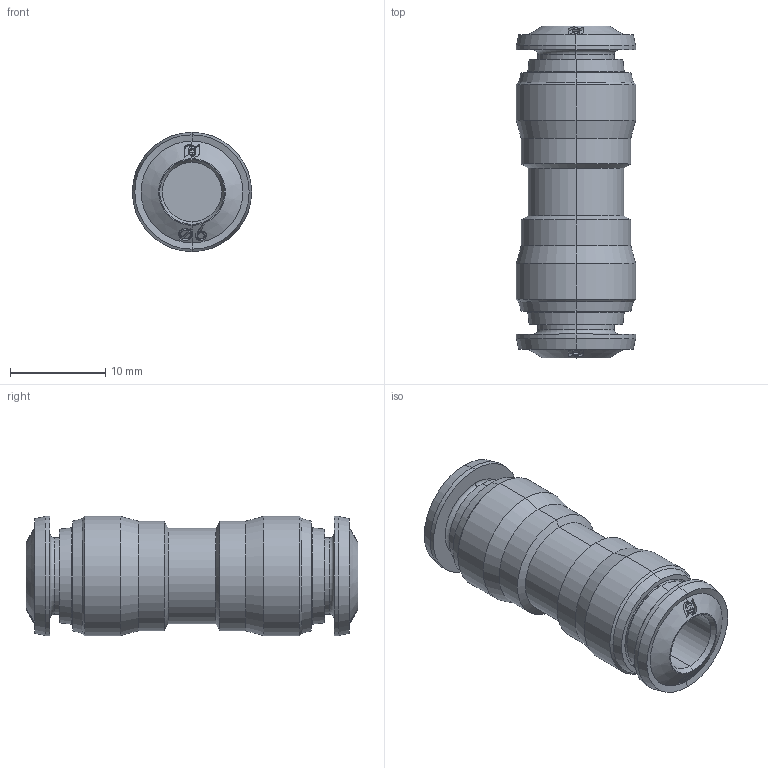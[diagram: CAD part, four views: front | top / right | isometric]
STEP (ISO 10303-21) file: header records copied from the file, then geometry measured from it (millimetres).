
FILE_DESCRIPTION (( 'STEP AP214' ), '1' );
FILE_NAME ('5004000003.step', '2012-10-01T16:42:32', ( '' ), ( '' ), 'SwSTEP 2.0', 'SolidWorks 2012', '' );
FILE_SCHEMA (( 'AUTOMOTIVE_DESIGN' ));
Length unit declared in the file: millimetre
Products named in the file (1): 5004000003
Bounding box: 12.5 x 34.8 x 12.5 mm (x, y, z)
Volume: 2947.5 mm3; surface area: 2402.1 mm2
Topology: 1 solids, 3 shells, 232 faces, 552 edges, 348 vertices
Faces by surface type: bspline 92, cone 66, cylinder 46, plane 20, torus 8
Entity records: 13938 total; most frequent: CARTESIAN_POINT 6745, ORIENTED_EDGE 1104, DIRECTION 674, EDGE_CURVE 552, VERTEX_POINT 348, B_SPLINE_CURVE_WITH_KNOTS 304, AXIS2_PLACEMENT_3D 285, EDGE_LOOP 258
